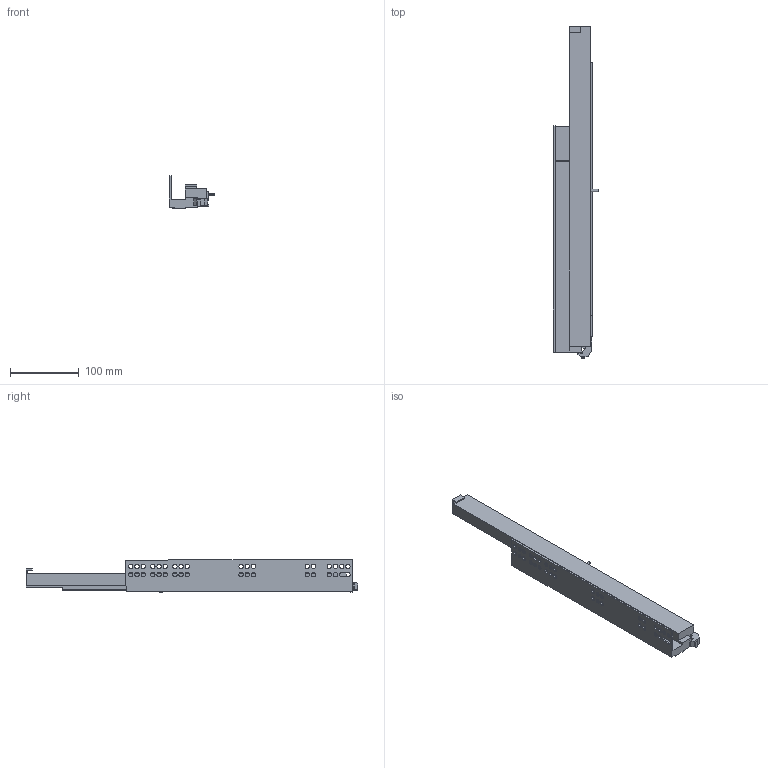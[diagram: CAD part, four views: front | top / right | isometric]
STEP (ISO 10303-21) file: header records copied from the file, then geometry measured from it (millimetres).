
FILE_DESCRIPTION (( 'STEP AP203' ), '1' );
FILE_NAME ('IMOS_Dynapro_Tipmatic_D51_NL_0_LI.STEP', '2013-03-22T12:09:30', ( 'Grass GmbH' ), ( 'Grass GmbH' ), 'SwSTEP 2.0', 'SolidWorks 2012', '' );
FILE_SCHEMA (( 'CONFIG_CONTROL_DESIGN' ));
Length unit declared in the file: millimetre
Products named in the file (1): IMOS_Dynapro_Tipmatic_D51_NL_0_LI
Bounding box: 65.92 x 481.55 x 47.53 mm (x, y, z)
Volume: 447103.3 mm3; surface area: 105920.2 mm2
Topology: 1 solids, 1 shells, 174 faces, 500 edges, 333 vertices
Faces by surface type: plane 97, cylinder 77
Entity records: 5947 total; most frequent: CARTESIAN_POINT 1008, DIRECTION 1004, ORIENTED_EDGE 1000, EDGE_CURVE 500, VECTOR 346, LINE 346, VERTEX_POINT 333, AXIS2_PLACEMENT_3D 329
